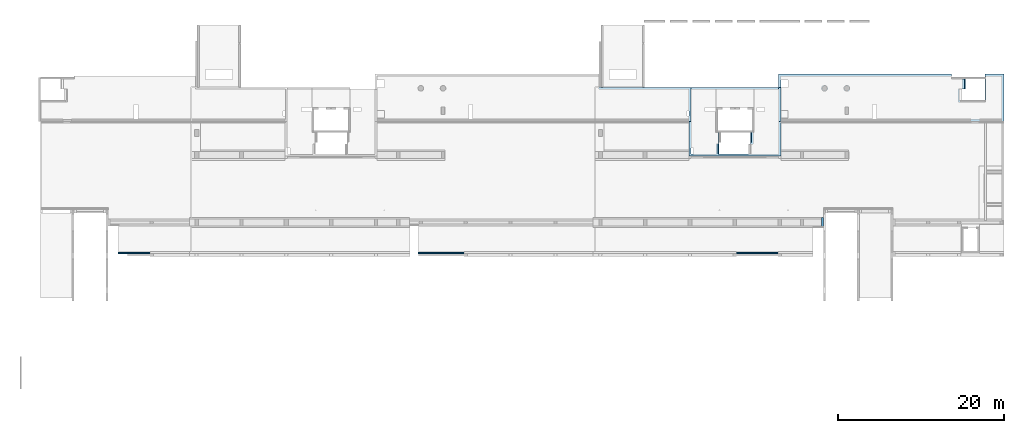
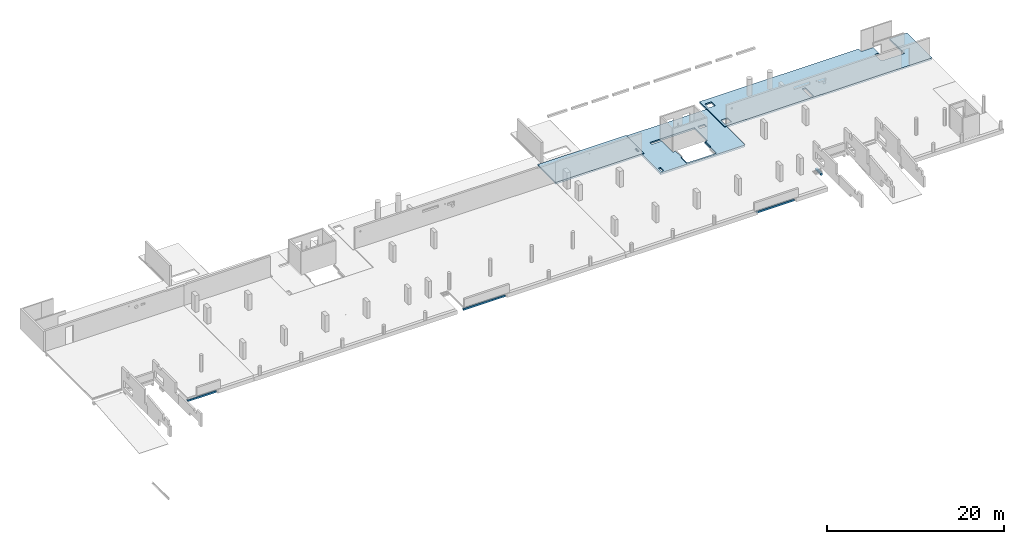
# One storey, part 9 of 10: 4 walls, 3 slabs.
"""IFC2X3 building model written with IfcOpenShell, lengths in millimetres."""

import ifcopenshell
import ifcopenshell.guid

model = None  # the IFC model being written
_history = None  # IfcOwnerHistory: only IFC2X3 demands one
_inside = {}  # id of a spatial element -> (the spatial element, [elements in it])
_under = {}  # id of a project, library or spatial element -> (it, [spatial elements below it])
_declared = {}  # id of a project -> (the project, [libraries it declares])
_typed = {}  # id of a type object -> (the type object, [elements of that type])
_made_of = {}  # id of a material, layer set ... -> (it, [elements and type objects made of it])


def new_model(schema):
    """Start an empty IFC model of exactly this schema.

    Asked for "IFC4X3", IfcOpenShell would pick the latest addendum, in which some entities
    have other attributes; the version numbers below select the first issue.
    IFC2X3 requires an IfcOwnerHistory on every rooted entity: one is made here for all.
    """
    global model, _history
    if schema == "IFC4X3":
        model = ifcopenshell.file(schema_version=(4, 3, 0, 0))
    else:
        model = ifcopenshell.file(schema=schema)
    _inside.clear()
    _under.clear()
    _declared.clear()
    _typed.clear()
    _made_of.clear()
    _history = None
    if model.schema == "IFC2X3":
        org = make("IfcOrganization", Name="unknown")
        user = make(
            "IfcPersonAndOrganization",
            ThePerson=make("IfcPerson", FamilyName="unknown"),
            TheOrganization=org,
        )
        app = make(
            "IfcApplication",
            ApplicationDeveloper=org,
            Version="unknown",
            ApplicationFullName="unknown",
            ApplicationIdentifier="unknown",
        )
        _history = make(
            "IfcOwnerHistory",
            OwningUser=user,
            OwningApplication=app,
            ChangeAction="ADDED",
            CreationDate=0,
        )
    return model


def make(cls, **values):
    """One entity of the class cls with the attributes given. An attribute that is None is left unset."""
    return model.create_entity(
        cls, **{name: value for name, value in values.items() if value is not None}
    )


def entity(cls, *values):
    """Any entity or typed value of the class cls, its attributes in the order of the schema. None: left unset."""
    e = model.create_entity(cls)
    for i, value in enumerate(values):
        if value is not None:
            e[i] = value
    return e


def rooted(cls, **values):
    """An entity with a GlobalId (a new one), such as an element, a storey or a relation."""
    return make(cls, GlobalId=ifcopenshell.guid.new(), OwnerHistory=_history, **values)


def si_unit(unit_type, name, prefix=None):
    """IfcSIUnit, for example si_unit("LENGTHUNIT", "METRE", prefix="MILLI")."""
    return make("IfcSIUnit", UnitType=unit_type, Prefix=prefix, Name=name)


def converted_unit(unit_type, name, factor, base, dimensions=None, offset=None):
    """IfcConversionBasedUnit, such as the inch: factor (a typed value) times the base unit."""
    return make(
        "IfcConversionBasedUnit"
        if offset is None
        else "IfcConversionBasedUnitWithOffset",
        ConversionOffset=offset,
        Dimensions=None
        if dimensions is None
        else entity("IfcDimensionalExponents", *dimensions),
        UnitType=unit_type,
        Name=name,
        ConversionFactor=make(
            "IfcMeasureWithUnit", ValueComponent=factor, UnitComponent=base
        ),
    )


def derived_unit(unit_type, elements):
    """IfcDerivedUnit: a product of units, each with its exponent."""
    return make(
        "IfcDerivedUnit",
        Elements=[
            make("IfcDerivedUnitElement", Unit=unit, Exponent=power)
            for unit, power in elements
        ],
        UnitType=unit_type,
    )


def assignment(units):
    """IfcUnitAssignment: the units of a project."""
    return None if units is None else make("IfcUnitAssignment", Units=units)


def point(xyz):
    """IfcCartesianPoint."""
    return None if xyz is None else make("IfcCartesianPoint", Coordinates=xyz)


def direction(xyz):
    """IfcDirection."""
    return None if xyz is None else make("IfcDirection", DirectionRatios=xyz)


def frame(location, z_axis=None, x_axis=None):
    """IfcAxis2Placement3D, a coordinate frame: its origin and axes. An axis left out is left unset."""
    return make(
        "IfcAxis2Placement3D",
        Location=point(location),
        Axis=direction(z_axis),
        RefDirection=direction(x_axis),
    )


def origin():
    """The frame at (0, 0, 0) with its axes left unset."""
    return frame((0.0, 0.0, 0.0))


def place(relative_to, where):
    """IfcLocalPlacement: puts the frame where relative to a parent placement (None: the world)."""
    return make(
        "IfcLocalPlacement", PlacementRelTo=relative_to, RelativePlacement=where
    )


def context(
    kind, dimensions, precision=None, world=None, true_north=None, identifier=None
):
    """IfcGeometricRepresentationContext, for example the 3D "Model" context."""
    return make(
        "IfcGeometricRepresentationContext",
        ContextIdentifier=identifier,
        ContextType=kind,
        CoordinateSpaceDimension=dimensions,
        Precision=precision,
        WorldCoordinateSystem=world,
        TrueNorth=true_north,
    )


def subcontext(parent, identifier, kind, view, scale=None):
    """IfcGeometricRepresentationSubContext, for example "Body" below "Model"."""
    return make(
        "IfcGeometricRepresentationSubContext",
        ContextIdentifier=identifier,
        ContextType=kind,
        ParentContext=parent,
        TargetScale=scale,
        TargetView=view,
    )


def project(units=None, contexts=None):
    """IfcProject with its units and contexts."""
    return rooted(
        "IfcProject",
        Name="project",
        RepresentationContexts=contexts,
        UnitsInContext=assignment(units),
    )


def spatial(cls, under=None, at=None, **own):
    """A site, building, storey or space (cls), placed at a placement, below another one or the project."""
    s = rooted(cls, ObjectPlacement=at, **own)
    if under is not None:
        _under.setdefault(under.id(), (under, []))[1].append(s)
    return s


def faces_of(points, faces, orient=None, outer=None):
    """IfcFace entities. A face is a list of loops; a loop is a list of indices into points, from 0.

    orient and outer hold one flag for each loop. By default every Orientation is true, the
    first loop of a face is its IfcFaceOuterBound and the others are IfcFaceBound.
    """
    made = []
    for i, loops in enumerate(faces):
        bounds = []
        for j, loop in enumerate(loops):
            is_outer = j == 0 if outer is None else outer[i][j]
            bounds.append(
                make(
                    "IfcFaceOuterBound" if is_outer else "IfcFaceBound",
                    Bound=make("IfcPolyLoop", Polygon=[points[k] for k in loop]),
                    Orientation=True if orient is None else orient[i][j],
                )
            )
        made.append(make("IfcFace", Bounds=bounds))
    return made


def faceted_brep(points, faces, orient=None, outer=None, voids=None):
    """IfcFacetedBrep: a solid bounded by flat faces; with voids (closed shells), ...WithVoids."""
    shared = [point(p) for p in points]
    hull = make("IfcClosedShell", CfsFaces=faces_of(shared, faces, orient, outer))
    if voids is None:
        return make("IfcFacetedBrep", Outer=hull)
    return make(
        "IfcFacetedBrepWithVoids",
        Outer=hull,
        Voids=[
            make(cls, CfsFaces=faces_of(shared, fs, o, b)) for cls, fs, o, b in voids
        ],
    )


def shape(context_of_items, identifier, shape_type, items):
    """IfcShapeRepresentation: the items that make up one representation, for example the "Body"."""
    return make(
        "IfcShapeRepresentation",
        ContextOfItems=context_of_items,
        RepresentationIdentifier=identifier,
        RepresentationType=shape_type,
        Items=items,
    )


def material(Name=None, Category=None):
    """IfcMaterial."""
    return make("IfcMaterial", Name=Name, Category=Category)


def made_of(thing, what):
    """Note that an element or type object is made of a material, layer set ...; save() writes the relation."""
    if what is not None:
        _made_of.setdefault(what.id(), (what, []))[1].append(thing)
    return thing


def type_object(cls, material=None, **own):
    """A type object (cls), such as IfcWallType, which elements share."""
    return made_of(rooted(cls, **own), material)


def element(
    cls,
    number,
    at=None,
    inside=None,
    cuts=None,
    type_object=None,
    material=None,
    context=None,
    identifier="Body",
    shape_type=None,
    held_by="IfcProductDefinitionShape",
    body=None,
    shapes=None,
    **own,
):
    """One element of the class cls, such as IfcWall. Its Tag is "e" and its number.

    at: its placement. inside: the storey or other place that contains it. cuts: it is an
    opening in that element (IfcRelVoidsElement). A single representation is given by context,
    identifier, shape_type and body (its items); several are given by shapes. held_by: the class
    of the entity that holds the representations. save() writes the other relations.
    """
    e = rooted(cls, Tag="e%d" % number, ObjectPlacement=at, **own)
    if body is not None:
        shapes = [shape(context, identifier, shape_type, body)]
    if shapes is not None:
        e.Representation = make(held_by, Representations=shapes)
    if inside is not None:
        _inside.setdefault(inside.id(), (inside, []))[1].append(e)
    if cuts is not None:
        rooted(
            "IfcRelVoidsElement", RelatingBuildingElement=cuts, RelatedOpeningElement=e
        )
    if type_object is not None:
        _typed.setdefault(type_object.id(), (type_object, []))[1].append(e)
    return made_of(e, material)


def aggregate(whole, parts):
    """IfcRelAggregates: a whole, such as a stair, and the parts it consists of."""
    return rooted("IfcRelAggregates", RelatingObject=whole, RelatedObjects=parts)


def save(model, path):
    """Write the relations noted so far, then the file.

    IfcRelAggregates (storeys below a building ...), IfcRelContainedInSpatialStructure (elements
    in a storey), IfcRelDefinesByType, IfcRelAssociatesMaterial and IfcRelDeclares: one each for
    every whole, place, type object, material and project.
    """
    for whole, parts in _under.values():
        aggregate(whole, parts)
    for where, things in _inside.values():
        rooted(
            "IfcRelContainedInSpatialStructure",
            RelatedElements=things,
            RelatingStructure=where,
        )
    for kind, things in _typed.values():
        rooted("IfcRelDefinesByType", RelatedObjects=things, RelatingType=kind)
    for what, things in _made_of.values():
        rooted("IfcRelAssociatesMaterial", RelatedObjects=things, RelatingMaterial=what)
    for by, libraries in _declared.values():
        rooted("IfcRelDeclares", RelatingContext=by, RelatedDefinitions=libraries)
    model.write(path)


model = new_model("IFC2X3")

# Units and contexts
model_context = context("Model", 3, precision=0.01, world=origin(), true_north=direction((6.12303176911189e-17, 1.0)))
body_context = subcontext(model_context, "Body", "Model", "MODEL_VIEW")
ifc_project = project(units=[si_unit("LENGTHUNIT", "METRE", prefix="MILLI"), si_unit("AREAUNIT", "SQUARE_METRE"), si_unit("VOLUMEUNIT", "CUBIC_METRE"), converted_unit("PLANEANGLEUNIT", "DEGREE", entity("IfcRatioMeasure", 0.0174532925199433), si_unit("PLANEANGLEUNIT", "RADIAN"), dimensions=[0, 0, 0, 0, 0, 0, 0]), si_unit("MASSUNIT", "GRAM", prefix="KILO"), derived_unit("MASSDENSITYUNIT", [(si_unit("MASSUNIT", "GRAM", prefix="KILO"), 1), (si_unit("LENGTHUNIT", "METRE"), -3)]), si_unit("TIMEUNIT", "SECOND"), si_unit("FREQUENCYUNIT", "HERTZ"), si_unit("THERMODYNAMICTEMPERATUREUNIT", "DEGREE_CELSIUS"), derived_unit("THERMALTRANSMITTANCEUNIT", [(si_unit("MASSUNIT", "GRAM", prefix="KILO"), 1), (si_unit("THERMODYNAMICTEMPERATUREUNIT", "KELVIN"), -1), (si_unit("TIMEUNIT", "SECOND"), -3)]), derived_unit("VOLUMETRICFLOWRATEUNIT", [(si_unit("LENGTHUNIT", "METRE"), 3), (si_unit("TIMEUNIT", "SECOND"), -1)]), si_unit("ELECTRICCURRENTUNIT", "AMPERE"), si_unit("ELECTRICVOLTAGEUNIT", "VOLT"), si_unit("POWERUNIT", "WATT"), si_unit("FORCEUNIT", "NEWTON", prefix="KILO"), si_unit("ILLUMINANCEUNIT", "LUX"), si_unit("LUMINOUSFLUXUNIT", "LUMEN"), si_unit("LUMINOUSINTENSITYUNIT", "CANDELA"), derived_unit("USERDEFINED", [(si_unit("MASSUNIT", "GRAM", prefix="KILO"), -1), (si_unit("LENGTHUNIT", "METRE"), -2), (si_unit("TIMEUNIT", "SECOND"), 3), (si_unit("LUMINOUSFLUXUNIT", "LUMEN"), 1)]), derived_unit("LINEARVELOCITYUNIT", [(si_unit("LENGTHUNIT", "METRE"), 1), (si_unit("TIMEUNIT", "SECOND"), -1)]), si_unit("PRESSUREUNIT", "PASCAL"), derived_unit("USERDEFINED", [(si_unit("LENGTHUNIT", "METRE"), -2), (si_unit("MASSUNIT", "GRAM", prefix="KILO"), 1), (si_unit("TIMEUNIT", "SECOND"), -2)])], contexts=[model_context])

# Site, building, storey
site_placement = place(None, origin())
site = spatial("IfcSite", under=ifc_project, at=site_placement, Name="Default", CompositionType="ELEMENT")
building_placement = place(site_placement, origin())
building = spatial("IfcBuilding", under=site, at=building_placement, Name="niet gebruiken", CompositionType="ELEMENT")
storey_placement = place(building_placement, frame((0.0, 0.0, 9410.0)))
storey = spatial("IfcBuildingStorey", under=building, at=storey_placement, Name="02b tweede tussenverdieping", CompositionType="ELEMENT", Elevation=9409.99999999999)

# Slabs
slab_1_placement = place(storey_placement, origin())
element("IfcSlab", 1, at=slab_1_placement, inside=storey, Name="Floor:NLRS_23.21_FL_breedplaat d=70/250_schil apart - gevlinderd_gen", ObjectType="Floor:NLRS_23.21_FL_breedplaat d=70/250_schil apart - gevlinderd_gen", PredefinedType="FLOOR", context=body_context, shape_type="Brep", body=[
    faceted_brep([(102916.376563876, 44957.1143943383, -250.0), (102887.753127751, 44883.2287886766, -250.0), (102854.958076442, 44798.5750029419, -250.0), (102783.260411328, 44770.799179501, -250.0), (102711.562746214, 44743.0233560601, -250.0), (102639.8650811, 44715.2475326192, -250.0), (102568.167415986, 44687.4717091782, -250.0), (102512.386042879, 44715.2475326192, -250.0), (102456.604669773, 44743.0233560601, -250.0), (102400.823296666, 44770.799179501, -250.0), (102345.04192356, 44798.575002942, -250.0), (102322.53144267, 44856.6812522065, -250.0), (102300.02096178, 44914.787501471, -250.0), (102283.623436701, 44957.1143928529, -250.0), (102255.0, 45031.0, -250.0), (102283.623436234, 45104.8856059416, -250.0), (102312.246872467, 45178.7712118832, -250.0), (102345.04192356, 45263.4249970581, -250.0), (102416.739588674, 45291.200820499, -250.0), (102488.437253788, 45318.9766439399, -250.0), (102560.134918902, 45346.7524673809, -250.0), (102631.832584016, 45374.5282908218, -250.0), (102687.613957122, 45346.7524673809, -250.0), (102743.395330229, 45318.9766439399, -250.0), (102799.176703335, 45291.200820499, -250.0), (102854.958076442, 45263.4249970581, -250.0), (102877.468557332, 45205.3187477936, -250.0), (102899.979038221, 45147.2124985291, -250.0), (102916.376563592, 45104.8856063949, -250.0), (102945.0, 45031.0, -250.0), (105495.0, 42776.0, -250.0), (105495.0, 41886.0, -250.0), (105055.0, 41886.0, -250.0), (105055.0, 42776.0, -250.0), (124200.0, 41061.0, -250.0), (123950.0, 41061.0, -250.0), (97325.0, 41061.0, -250.0), (97075.0, 41061.0, -250.0), (97075.0, 45156.0, -250.0), (97075.0, 46746.0, -250.0), (97325.0, 46746.0, -250.0), (117880.0, 46746.0, -250.0), (117880.0, 46496.0, -250.0), (117880.0, 46176.0, -250.0), (119545.0, 46176.0, -250.0), (119545.0, 44926.0, -250.0), (119175.0, 44926.0, -250.0), (119175.0, 46156.0, -250.0), (117860.0, 46156.0, -250.0), (117860.0, 46516.0, -250.0), (97305.0, 46516.0, -250.0), (97305.0, 46056.0, -250.0), (97325.0, 46056.0, -250.0), (97325.0, 45156.0, -250.0), (97305.0, 45156.0, -250.0), (97305.0, 42386.0, -250.0), (97325.0, 42386.0, -250.0), (97325.0, 41486.0, -250.0), (97305.0, 41486.0, -250.0), (97305.0, 41291.0, -250.0), (108375.0, 41291.0, -250.0), (108375.0, 41311.0, -250.0), (108825.0, 41311.0, -250.0), (108825.0, 41291.0, -250.0), (123970.0, 41291.0, -250.0), (123970.0, 46516.0, -250.0), (121950.0, 46516.0, -250.0), (121950.0, 43376.0, -250.0), (118710.0, 43376.0, -250.0), (118710.0, 44926.0, -250.0), (119005.0, 44926.0, -250.0), (119005.0, 43396.0, -250.0), (121930.0, 43396.0, -250.0), (121930.0, 46496.0, -250.0), (121930.0, 46746.0, -250.0), (123950.0, 46746.0, -250.0), (124200.0, 46746.0, -250.0), (105591.376563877, 44957.1143943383, -250.0), (105562.753127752, 44883.2287886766, -250.0), (105529.958076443, 44798.575002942, -250.0), (105458.260411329, 44770.799179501, -250.0), (105386.562746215, 44743.0233560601, -250.0), (105314.865081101, 44715.2475326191, -250.0), (105243.167415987, 44687.4717091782, -250.0), (105187.38604288, 44715.2475326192, -250.0), (105131.604669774, 44743.0233560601, -250.0), (105075.823296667, 44770.799179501, -250.0), (105020.041923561, 44798.575002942, -250.0), (104997.531442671, 44856.6812522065, -250.0), (104975.020961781, 44914.787501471, -250.0), (104958.623436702, 44957.1143928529, -250.0), (104930.0, 45031.0, -250.0), (104958.623436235, 45104.8856059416, -250.0), (104987.246872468, 45178.7712118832, -250.0), (105020.041923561, 45263.4249970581, -250.0), (105091.739588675, 45291.200820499, -250.0), (105163.437253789, 45318.9766439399, -250.0), (105235.134918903, 45346.7524673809, -250.0), (105306.832584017, 45374.5282908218, -250.0), (105362.613957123, 45346.7524673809, -250.0), (105418.39533023, 45318.9766439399, -250.0), (105474.176703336, 45291.200820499, -250.0), (105529.958076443, 45263.4249970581, -250.0), (105552.468557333, 45205.3187477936, -250.0), (105574.979038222, 45147.212498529, -250.0), (105591.376563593, 45104.8856063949, -250.0), (105620.0, 45031.0, -250.0), (97075.0, 41061.0, 0.0), (97325.0, 41061.0, 0.0), (97325.0, 41486.0, 0.0), (97325.0, 42386.0, 0.0), (97075.0, 46156.0, 0.0), (98225.0, 41486.0, 0.0), (108375.0, 41311.0, 0.0), (108825.0, 41311.0, 0.0), (120225.0, 41061.0, 0.0), (119005.0, 43396.0, 0.0), (121930.0, 43396.0, 0.0), (121250.0, 41061.0, 0.0), (123950.0, 41061.0, 0.0), (124200.0, 41061.0, 0.0), (124200.0, 46496.0, 0.0), (121930.0, 46496.0, 0.0), (121930.0, 46746.0, 0.0), (124200.0, 46746.0, 0.0), (118895.0, 43576.0, 0.0), (119005.0, 43576.0, 0.0), (108825.0, 43111.0, 0.0), (117880.0, 46176.0, 0.0), (118895.0, 44846.0, 0.0), (119005.0, 44926.0, 0.0), (119005.0, 44846.0, 0.0), (119435.0, 46176.0, 0.0), (119435.0, 44926.0, 0.0), (109095.0, 46746.0, 0.0), (117705.0, 46746.0, 0.0), (117880.0, 46496.0, 0.0), (117880.0, 46746.0, 0.0), (108125.0, 46746.0, 0.0), (108375.0, 43111.0, 0.0), (107875.0, 46746.0, 0.0), (106905.0, 46746.0, 0.0), (98225.0, 42386.0, 0.0), (98225.0, 45156.0, 0.0), (98225.0, 46056.0, 0.0), (98295.0, 46746.0, 0.0), (97325.0, 46746.0, 0.0), (97075.0, 46746.0, 0.0), (97325.0, 46056.0, 0.0), (97325.0, 45156.0, 0.0), (98325.0, 46746.0, -120.0), (98325.0, 46746.0, -50.0), (106875.0, 46746.0, -50.0), (106875.0, 46746.0, -120.0), (109125.0, 46746.0, -120.0), (109125.0, 46746.0, -50.0), (117675.0, 46746.0, -50.0), (117880.0, 46746.0, -120.0), (117675.0, 46746.0, -120.0), (97075.0, 46746.0, -50.0), (121930.0, 46746.0, -120.0), (123970.0, 46746.0, -120.0), (123970.0, 46746.0, -50.0), (121930.0, 46746.0, -50.0), (124200.0, 46746.0, -120.0), (97075.0, 41061.0, -90.0), (121930.0, 46726.0, -120.0), (121930.0, 46726.0, -50.0), (119545.0, 46176.0, -130.0), (119545.0, 44926.0, -130.0), (119435.0, 44926.0, -130.0), (119005.0, 44926.0, -180.0), (119175.0, 44926.0, -180.0), (119005.0, 44846.0, -130.0), (119005.0, 43576.0, -130.0), (98225.0, 46056.0, -180.0), (97325.0, 46056.0, -180.0), (97325.0, 45156.0, -180.0), (97325.0, 42386.0, -180.0), (97325.0, 41486.0, -180.0), (98225.0, 45156.0, -180.0), (98225.0, 41486.0, -180.0), (98225.0, 42386.0, -180.0), (119435.0, 46176.0, -130.0), (118895.0, 44846.0, -130.0), (118895.0, 43576.0, -130.0), (108375.0, 43111.0, -180.0), (108825.0, 43111.0, -180.0), (108825.0, 41311.0, -180.0), (108375.0, 41311.0, -180.0), (106875.0, 46726.0, -120.0), (98325.0, 46726.0, -120.0), (117675.0, 46726.0, -120.0), (109125.0, 46726.0, -120.0), (123970.0, 46726.0, -120.0), (106875.0, 46726.0, -50.0), (98325.0, 46726.0, -50.0), (117675.0, 46726.0, -50.0), (109125.0, 46726.0, -50.0), (123970.0, 46726.0, -50.0), (123970.0, 46516.0, -180.0), (123970.0, 41291.0, -180.0), (118710.0, 43376.0, -180.0), (108825.0, 41291.0, -180.0), (117860.0, 46156.0, -180.0), (117860.0, 46516.0, -180.0), (105529.958076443, 45263.4249970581, -180.0), (105552.468557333, 45205.3187477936, -180.0), (105574.979038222, 45147.212498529, -180.0), (105597.489519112, 45089.1062492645, -180.0), (105620.0, 45031.0, -180.0), (105597.489519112, 44972.8937507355, -180.0), (105574.979038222, 44914.787501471, -180.0), (105552.468557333, 44856.6812522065, -180.0), (105529.958076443, 44798.5750029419, -180.0), (105495.0, 42776.0, -180.0), (105495.0, 41886.0, -180.0), (108375.0, 41291.0, -180.0), (105055.0, 41886.0, -180.0), (97305.0, 41291.0, -180.0), (97305.0, 41486.0, -180.0), (102631.832584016, 44687.4717091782, -180.0), (102560.134918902, 44715.2475326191, -180.0), (102488.437253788, 44743.0233560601, -180.0), (102416.739588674, 44770.799179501, -180.0), (102345.04192356, 44798.575002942, -180.0), (97305.0, 45156.0, -180.0), (97305.0, 42386.0, -180.0), (102322.53144267, 44856.6812522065, -180.0), (102300.02096178, 44914.787501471, -180.0), (102277.510480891, 44972.8937507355, -180.0), (102255.0, 45031.0, -180.0), (102277.510480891, 45089.1062492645, -180.0), (102300.02096178, 45147.212498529, -180.0), (102322.53144267, 45205.3187477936, -180.0), (102345.04192356, 45263.4249970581, -180.0), (102400.823296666, 45291.200820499, -180.0), (102456.604669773, 45318.9766439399, -180.0), (102512.386042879, 45346.7524673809, -180.0), (102568.167415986, 45374.5282908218, -180.0), (97305.0, 46516.0, -180.0), (97305.0, 46056.0, -180.0), (105243.167415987, 45374.5282908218, -180.0), (102639.8650811, 45346.7524673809, -180.0), (105055.0, 42776.0, -180.0), (102687.613957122, 44715.2475326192, -180.0), (102743.395330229, 44743.0233560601, -180.0), (102799.176703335, 44770.799179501, -180.0), (102854.958076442, 44798.5750029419, -180.0), (105020.041923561, 44798.575002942, -180.0), (104997.531442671, 44856.6812522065, -180.0), (104975.020961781, 44914.787501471, -180.0), (104952.510480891, 44972.8937507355, -180.0), (104930.0, 45031.0, -180.0), (102877.468557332, 44856.6812522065, -180.0), (102899.979038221, 44914.787501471, -180.0), (102922.489519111, 44972.8937507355, -180.0), (102945.0, 45031.0, -180.0), (104952.510480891, 45089.1062492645, -180.0), (104975.020961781, 45147.2124985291, -180.0), (104997.531442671, 45205.3187477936, -180.0), (105020.041923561, 45263.4249970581, -180.0), (102922.489519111, 45089.1062492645, -180.0), (102899.979038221, 45147.212498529, -180.0), (102877.468557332, 45205.3187477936, -180.0), (102854.958076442, 45263.4249970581, -180.0), (105187.38604288, 45346.7524673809, -180.0), (102783.260411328, 45291.200820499, -180.0), (105131.604669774, 45318.9766439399, -180.0), (105075.823296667, 45291.200820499, -180.0), (102711.562746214, 45318.9766439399, -180.0), (105091.739588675, 44770.799179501, -180.0), (105163.437253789, 44743.0233560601, -180.0), (105235.134918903, 44715.2475326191, -180.0), (105306.832584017, 44687.4717091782, -180.0), (105362.613957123, 44715.2475326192, -180.0), (105418.39533023, 44743.0233560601, -180.0), (105474.176703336, 44770.799179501, -180.0), (105458.260411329, 45291.200820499, -180.0), (105386.562746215, 45318.9766439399, -180.0), (105314.865081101, 45346.7524673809, -180.0), (118710.0, 44926.0, -180.0), (119175.0, 46156.0, -180.0), (121950.0, 43376.0, -180.0), (121950.0, 46516.0, -180.0)], [[[0, 1, 2, 3, 4, 5, 6, 7, 8, 9, 10, 11, 12, 13, 14, 15, 16, 17, 18, 19, 20, 21, 22, 23, 24, 25, 26, 27, 28, 29]], [[30, 31, 32, 33]], [[34, 35, 36, 37, 38, 39, 40, 41, 42, 43, 44, 45, 46, 47, 48, 49, 50, 51, 52, 53, 54, 55, 56, 57, 58, 59, 60, 61, 62, 63, 64, 65, 66, 67, 68, 69, 70, 71, 72, 73, 74, 75, 76]], [[77, 78, 79, 80, 81, 82, 83, 84, 85, 86, 87, 88, 89, 90, 91, 92, 93, 94, 95, 96, 97, 98, 99, 100, 101, 102, 103, 104, 105, 106]], [[107, 108, 109]], [[109, 110, 107]], [[107, 110, 111]], [[112, 109, 108]], [[108, 113, 112]], [[114, 113, 108]], [[108, 115, 114]], [[116, 114, 115]], [[117, 116, 115]], [[117, 115, 118]], [[117, 118, 119]], [[117, 119, 120]], [[120, 121, 117]], [[117, 121, 122]], [[121, 123, 122]], [[123, 121, 124]], [[125, 114, 116]], [[116, 126, 125]], [[114, 125, 127]], [[128, 127, 125]], [[125, 129, 128]], [[129, 130, 128]], [[129, 131, 130]], [[132, 128, 130]], [[133, 132, 130]], [[127, 128, 134]], [[128, 135, 134]], [[128, 136, 135]], [[135, 136, 137]], [[127, 134, 138]], [[139, 127, 138]], [[140, 139, 138]], [[139, 140, 141]], [[141, 142, 139]], [[143, 142, 141]], [[141, 144, 143]], [[144, 141, 145]], [[144, 145, 146]], [[147, 111, 146]], [[146, 111, 148]], [[148, 144, 146]], [[149, 142, 143]], [[110, 142, 149]], [[149, 148, 111]], [[149, 111, 110]], [[113, 139, 142]], [[113, 142, 112]], [[145, 150, 40]], [[145, 151, 150]], [[152, 151, 145]], [[152, 145, 141]], [[146, 145, 40]], [[141, 153, 152]], [[140, 153, 141]], [[140, 154, 153]], [[154, 140, 138]], [[138, 134, 154]], [[155, 154, 134]], [[134, 135, 155]], [[156, 155, 135]], [[135, 157, 156]], [[137, 157, 135]], [[157, 158, 156]], [[158, 157, 41]], [[41, 153, 154]], [[153, 41, 40]], [[41, 154, 158]], [[40, 150, 153]], [[159, 146, 40]], [[40, 39, 159]], [[146, 159, 147]], [[74, 160, 161, 162, 163, 123, 124, 164, 76, 75]], [[121, 120, 34, 76, 164, 124]], [[37, 165, 107, 111, 147, 159, 39, 38]], [[72, 71, 116, 117]], [[166, 160, 74, 73, 72, 117, 122, 123, 163, 167]], [[45, 44, 168, 169]], [[46, 45, 169, 170, 133, 130, 171, 172]], [[70, 171, 130, 131, 173, 174, 126, 116, 71]], [[115, 108, 107, 165, 37, 36, 35, 34, 120, 119, 118]], [[175, 144, 148, 176]], [[176, 148, 149, 177, 53, 52]], [[178, 110, 109, 179, 57, 56]], [[177, 149, 143, 180]], [[180, 143, 144, 175]], [[181, 112, 142, 182]], [[169, 168, 183, 170]], [[173, 184, 185, 174]], [[183, 132, 133, 170]], [[42, 41, 157, 137, 136, 128, 43]], [[168, 44, 43, 128, 132, 183]], [[184, 173, 131, 129]], [[185, 184, 129, 125]], [[185, 125, 126, 174]], [[127, 139, 186, 187]], [[114, 127, 187, 188]], [[189, 113, 114, 188, 62, 61]], [[139, 113, 189, 186]], [[182, 142, 110, 178]], [[179, 109, 112, 181]], [[190, 153, 150, 191]], [[192, 158, 154, 193]], [[166, 194, 161, 160]], [[152, 195, 196, 151]], [[156, 197, 198, 155]], [[162, 199, 167, 163]], [[151, 196, 191, 150]], [[195, 190, 191, 196]], [[197, 192, 193, 198]], [[199, 194, 166, 167]], [[152, 153, 190, 195]], [[155, 198, 193, 154]], [[156, 158, 192, 197]], [[162, 161, 194, 199]], [[200, 65, 64, 201]], [[188, 202, 203]], [[187, 202, 188]], [[202, 187, 204]], [[205, 204, 187]], [[206, 205, 187]], [[187, 186, 206]], [[186, 207, 206]], [[186, 208, 207]], [[186, 209, 208]], [[186, 210, 209]], [[186, 211, 210]], [[186, 212, 211]], [[186, 213, 212]], [[186, 214, 213]], [[214, 186, 215]], [[186, 216, 215]], [[189, 216, 186]], [[216, 189, 217]], [[218, 216, 217]], [[218, 217, 181]], [[217, 219, 181]], [[219, 179, 181]], [[179, 219, 220]], [[221, 218, 181]], [[181, 222, 221]], [[181, 223, 222]], [[181, 224, 223]], [[181, 225, 224]], [[181, 182, 225]], [[180, 225, 182]], [[177, 180, 182]], [[182, 178, 177]], [[177, 178, 226]], [[227, 226, 178]], [[180, 228, 225]], [[180, 229, 228]], [[180, 230, 229]], [[180, 231, 230]], [[175, 231, 180]], [[175, 232, 231]], [[175, 233, 232]], [[175, 234, 233]], [[175, 235, 234]], [[175, 236, 235]], [[175, 237, 236]], [[175, 238, 237]], [[175, 239, 238]], [[240, 239, 175]], [[240, 175, 176]], [[176, 241, 240]], [[240, 205, 242]], [[240, 242, 239]], [[242, 243, 239]], [[244, 218, 221]], [[244, 221, 245]], [[244, 245, 246]], [[244, 246, 247]], [[244, 247, 248]], [[248, 249, 244]], [[248, 250, 249]], [[248, 251, 250]], [[248, 252, 251]], [[248, 253, 252]], [[253, 248, 254]], [[253, 254, 255]], [[253, 255, 256]], [[253, 256, 257]], [[257, 258, 253]], [[257, 259, 258]], [[257, 260, 259]], [[257, 261, 260]], [[261, 257, 262]], [[261, 262, 263]], [[261, 263, 264]], [[261, 264, 265]], [[265, 242, 266]], [[242, 265, 267]], [[265, 266, 268]], [[265, 268, 269]], [[265, 269, 261]], [[242, 267, 270]], [[242, 270, 243]], [[244, 249, 271]], [[244, 271, 272]], [[244, 272, 273]], [[244, 273, 274]], [[215, 274, 275]], [[244, 274, 215]], [[215, 275, 276]], [[215, 276, 277]], [[215, 277, 214]], [[205, 206, 278]], [[205, 278, 279]], [[205, 279, 280]], [[205, 280, 242]], [[281, 202, 204]], [[282, 281, 204]], [[171, 281, 282]], [[282, 172, 171]], [[201, 203, 202]], [[283, 201, 202]], [[283, 200, 201]], [[284, 200, 283]], [[203, 201, 64, 63]], [[217, 60, 59, 219]], [[240, 241, 51, 50]], [[220, 219, 59, 58]], [[227, 55, 54, 226]], [[240, 50, 49, 205]], [[200, 284, 66, 65]], [[203, 63, 62, 188]], [[217, 189, 61, 60]], [[179, 220, 58, 57]], [[227, 178, 56, 55]], [[177, 226, 54, 53]], [[241, 176, 52, 51]], [[218, 244, 33, 32]], [[216, 218, 32, 31]], [[215, 216, 31, 30]], [[244, 215, 30, 33]], [[249, 250, 251, 252, 253, 91, 90, 89, 88, 87]], [[84, 273, 272]], [[84, 83, 273]], [[85, 272, 271]], [[83, 274, 273]], [[79, 78, 77, 106, 210, 211, 212, 213, 214]], [[214, 277, 79]], [[271, 249, 86]], [[274, 82, 275]], [[276, 80, 277]], [[275, 82, 81]], [[249, 87, 86]], [[85, 271, 86]], [[274, 83, 82]], [[79, 277, 80]], [[272, 85, 84]], [[81, 276, 275]], [[80, 276, 81]], [[206, 207, 208, 209, 210, 106, 105, 104, 103, 102]], [[266, 97, 96]], [[99, 98, 280]], [[100, 279, 278]], [[278, 206, 101]], [[98, 97, 242]], [[94, 93, 92, 91, 253, 258, 259, 260, 261]], [[261, 269, 94]], [[242, 97, 266]], [[268, 95, 269]], [[279, 99, 280]], [[279, 100, 99]], [[206, 102, 101]], [[100, 278, 101]], [[94, 269, 95]], [[96, 268, 266]], [[98, 242, 280]], [[95, 268, 96]], [[265, 264, 263, 262, 257, 29, 28, 27, 26, 25]], [[238, 20, 19]], [[22, 21, 243]], [[23, 270, 267]], [[267, 265, 24]], [[21, 20, 239]], [[17, 16, 15, 14, 231, 232, 233, 234, 235]], [[235, 236, 17]], [[239, 20, 238]], [[237, 18, 236]], [[270, 22, 243]], [[270, 23, 22]], [[265, 25, 24]], [[23, 267, 24]], [[17, 236, 18]], [[19, 237, 238]], [[21, 239, 243]], [[18, 237, 19]], [[225, 228, 229, 230, 231, 14, 13, 12, 11, 10]], [[7, 222, 223]], [[7, 6, 222]], [[8, 223, 224]], [[6, 221, 222]], [[2, 1, 0, 29, 257, 256, 255, 254, 248]], [[248, 247, 2]], [[224, 225, 9]], [[221, 5, 245]], [[246, 3, 247]], [[245, 5, 4]], [[225, 10, 9]], [[8, 224, 9]], [[221, 6, 5]], [[2, 247, 3]], [[223, 8, 7]], [[4, 246, 245]], [[3, 246, 4]], [[204, 205, 49, 48]], [[204, 48, 47, 282]], [[282, 47, 46, 172]], [[281, 171, 70, 69]], [[281, 69, 68, 202]], [[202, 68, 67, 283]], [[283, 67, 66, 284]]]),
])
slab_2_placement = place(storey_placement, origin())
element("IfcSlab", 2, at=slab_2_placement, inside=storey, Name="Floor:NLRS_23.21_FL_breedplaat d=70/250_schil apart_gen", ObjectType="Floor:NLRS_23.21_FL_breedplaat d=70/250_schil apart_gen", PredefinedType="FLOOR", context=body_context, shape_type="Brep", body=[
    faceted_brep([(89525.0, 39746.0, -340.0), (89899.9997832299, 39746.0, -340.0), (89899.9997832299, 38526.0, -340.0), (89899.9997832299, 38306.0, -340.0), (89899.9997832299, 37106.0, -340.0), (93480.0, 37106.0, -340.0), (93699.9997832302, 37106.0, -340.0), (93699.9997832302, 38326.0, -340.0), (93700.0, 38526.0, -340.0), (93700.0, 39746.0, -340.0), (94075.0, 39746.0, -340.0), (94075.0, 42696.0, -340.0), (94095.0, 42696.0, -340.0), (94095.0, 39726.0, -340.0), (93970.0, 39726.0, -340.0), (93970.0, 38306.0, -340.0), (93749.9997832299, 38306.0, -340.0), (93749.9997832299, 37086.0, -340.0), (97095.0, 37086.0, -340.0), (97095.0, 44926.0, -340.0), (94075.0, 44926.0, -340.0), (89525.0, 44926.0, -340.0), (86505.0, 44926.0, -340.0), (86505.0, 37826.0, -340.0), (86525.0, 37826.0, -340.0), (86525.0, 37106.0, -340.0), (86825.0, 37106.0, -340.0), (86825.0, 37086.0, -340.0), (89599.9997832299, 37086.0, -340.0), (89599.9997832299, 38306.0, -340.0), (89850.0, 38306.0, -340.0), (89850.0, 39726.0, -340.0), (89505.0, 39726.0, -340.0), (89505.0, 42256.0, -340.0), (89525.0, 42256.0, -340.0), (86275.0, 36856.0, -340.0), (86275.0, 44906.0, -340.0), (86275.0, 45156.0, -340.0), (97325.0, 45156.0, -340.0), (97325.0, 36856.0, -340.0), (97075.0, 36856.0, -340.0), (89899.9997832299, 39746.0, -90.0), (89525.0, 39746.0, -90.0), (89525.0, 42256.0, -90.0), (88227.4998491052, 42256.0, -90.0), (88227.4998491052, 42696.0, -90.0), (94075.0, 42696.0, -90.0), (94075.0, 39746.0, -90.0), (93810.0, 39746.0, -90.0), (93810.0, 38526.0, -90.0), (93699.9997832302, 38526.0, -90.0), (93699.9997832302, 38326.0, -90.0), (93699.9997832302, 37106.0, -90.0), (93480.0, 37106.0, -90.0), (89789.9997832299, 37106.0, -90.0), (89789.9997832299, 38326.0, -90.0), (89899.9997832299, 38326.0, -90.0), (89899.9997832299, 38526.0, -90.0), (86825.0, 37826.0, -90.0), (86825.0, 37106.0, -90.0), (86525.0, 37106.0, -90.0), (86525.0, 37826.0, -90.0), (86275.0, 36856.0, -90.0), (97075.0, 36856.0, -90.0), (97325.0, 36856.0, -90.0), (97325.0, 41061.0, -90.0), (97075.0, 41061.0, -90.0), (97075.0, 45156.0, -90.0), (93975.0, 45156.0, -90.0), (93975.0, 45136.0, -90.0), (89205.0, 45136.0, -90.0), (89205.0, 45156.0, -90.0), (86525.0, 45156.0, -90.0), (86525.0, 44906.0, -90.0), (86525.0, 41061.0, -90.0), (86275.0, 41061.0, -90.0), (94480.0, 42701.0, -90.0), (95380.0, 42701.0, -90.0), (95380.0, 42251.0, -90.0), (94480.0, 42251.0, -90.0), (86275.0, 41061.0, -250.0), (86275.0, 41703.599707, -250.0), (86275.0, 42318.599707, -250.0), (86275.0, 44906.0, -250.0), (86275.0, 45156.0, -250.0), (86525.0, 45156.0, -250.0), (89205.0, 45156.0, -120.0), (93975.0, 45156.0, -120.0), (97075.0, 45156.0, -250.0), (97325.0, 45156.0, -250.0), (97325.0, 42386.0, -250.0), (97325.0, 41486.0, -250.0), (97325.0, 41061.0, -250.0), (88227.4998491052, 42696.0, -270.0), (89525.0, 42696.0, -270.0), (89525.0, 42696.0, -340.0), (94075.0, 42696.0, -270.0), (89899.9997832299, 38326.0, -130.0), (89899.9997832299, 38306.0, -130.0), (89899.9997832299, 37106.0, -130.0), (89789.9997832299, 37106.0, -130.0), (93699.9997832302, 38526.0, -340.0), (93700.0, 38526.0, -130.0), (93700.0, 39746.0, -130.0), (93810.0, 39746.0, -130.0), (93810.0, 38526.0, -130.0), (93699.9997832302, 38526.0, -130.0), (93700.0, 38526.0, -90.0), (88227.4998491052, 42256.0, -270.0), (89505.0, 42256.0, -270.0), (86825.0, 37826.0, -270.0), (86825.0, 37106.0, -270.0), (86525.0, 37826.0, -270.0), (89789.9997832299, 38326.0, -130.0), (86525.0, 41061.0, -250.0), (86505.0, 37826.0, -270.0), (86505.0, 44926.0, -270.0), (89525.0, 44926.0, -270.0), (94075.0, 44926.0, -270.0), (97095.0, 44926.0, -270.0), (97095.0, 37086.0, -270.0), (93749.9997832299, 37086.0, -270.0), (93749.9997832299, 38306.0, -270.0), (93970.0, 38306.0, -270.0), (93970.0, 39726.0, -270.0), (94095.0, 39726.0, -270.0), (94095.0, 42696.0, -270.0), (94075.0, 42716.0, -270.0), (89525.0, 42716.0, -270.0), (89505.0, 39726.0, -270.0), (89850.0, 39726.0, -270.0), (89850.0, 38306.0, -270.0), (89599.9997832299, 38306.0, -270.0), (89599.9997832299, 37086.0, -270.0), (86825.0, 37086.0, -270.0), (95380.0, 42701.0, -270.0), (94480.0, 42701.0, -270.0), (94480.0, 42251.0, -270.0), (95380.0, 42251.0, -270.0), (94075.0, 42716.0, -340.0), (89525.0, 42716.0, -340.0), (97075.0, 41061.0, -250.0), (89205.0, 45136.0, -120.0), (93975.0, 45136.0, -120.0)], [[[0, 1, 2, 3, 4, 5, 6, 7, 8, 9, 10, 11, 12, 13, 14, 15, 16, 17, 18, 19, 20, 21, 22, 23, 24, 25, 26, 27, 28, 29, 30, 31, 32, 33, 34], [35, 36, 37, 38, 39, 40]], [[41, 42, 43, 44, 45, 46, 47, 48, 49, 50, 51, 52, 53, 54, 55, 56, 57], [58, 59, 60, 61], [62, 63, 64, 65, 66, 67, 68, 69, 70, 71, 72, 73, 74, 75], [76, 77, 78, 79]], [[37, 36, 35, 62, 75, 80, 81, 82, 83, 84]], [[38, 37, 84, 85, 72, 71, 86, 87, 68, 67, 88, 89]], [[39, 38, 89, 90, 91, 92, 65, 64]], [[35, 40, 39, 64, 63, 62]], [[46, 45, 93, 94, 95, 11, 96]], [[42, 0, 34, 43]], [[1, 0, 42, 41]], [[11, 10, 47, 46, 96]], [[3, 2, 1, 41, 57, 56, 97, 98]], [[6, 5, 4, 99, 100, 54, 53, 52]], [[101, 7, 6, 52, 51, 50, 102]], [[10, 9, 103, 104, 48, 47]], [[4, 3, 98, 99]], [[9, 8, 102, 103]], [[102, 105, 104, 103]], [[104, 105, 49, 48]], [[105, 106, 107, 49]], [[45, 44, 108, 93]], [[44, 43, 34, 33, 109, 108]], [[59, 58, 110, 111]], [[25, 60, 59, 111, 26]], [[60, 25, 24, 112, 61]], [[58, 61, 112, 110]], [[100, 99, 98, 97, 113]], [[100, 113, 55, 54]], [[113, 97, 56, 55]], [[114, 85, 84, 83, 82, 81, 80]], [[114, 80, 75, 74]], [[85, 114, 74, 73, 72]], [[115, 116, 117, 118, 119, 120, 121, 122, 123, 124, 125, 126, 96, 127, 128, 94, 93, 108, 109, 129, 130, 131, 132, 133, 134, 111, 110, 112], [135, 136, 137, 138]], [[129, 109, 33, 32]], [[125, 124, 14, 13]], [[96, 11, 139, 127]], [[133, 132, 29, 28]], [[122, 121, 17, 16]], [[130, 129, 32, 31]], [[124, 123, 15, 14]], [[131, 130, 31, 30]], [[134, 133, 28, 27]], [[134, 27, 26, 111]], [[23, 115, 112, 24]], [[116, 115, 23, 22]], [[116, 22, 21, 20, 19, 119, 118, 117]], [[95, 94, 128, 140]], [[120, 119, 19, 18]], [[121, 120, 18, 17]], [[126, 125, 13, 12]], [[96, 126, 12, 11]], [[132, 131, 30, 29]], [[123, 122, 16, 15]], [[128, 127, 139, 140]], [[88, 141, 92, 91, 90, 89]], [[141, 88, 67, 66]], [[92, 141, 66, 65]], [[142, 143, 87, 86]], [[143, 142, 70, 69]], [[87, 143, 69, 68]], [[142, 86, 71, 70]], [[77, 76, 136, 135]], [[78, 77, 135, 138]], [[79, 78, 138, 137]], [[76, 79, 137, 136]], [[139, 11, 95, 140]]], outer=[[False, True], [False, False, True, False], [True], [True], [True], [True], [True], [True], [True], [True], [True], [True], [True], [True], [True], [True], [True], [True], [True], [True], [True], [True], [True], [True], [True], [True], [True], [True], [True], [True], [True], [True, False], [True], [True], [True], [True], [True], [True], [True], [True], [True], [True], [True], [True], [True], [True], [True], [True], [True], [True], [True], [True], [True], [True], [True], [True], [True], [True], [True], [True], [True], [True], [True], [True], [True]]),
])
slab_3_placement = place(storey_placement, origin())
element("IfcSlab", 3, at=slab_3_placement, inside=storey, Name="Floor:NLRS_23.21_FL_breedplaat d=70/250_schil apart - gevlinderd_gen", ObjectType="Floor:NLRS_23.21_FL_breedplaat d=70/250_schil apart - gevlinderd_gen", PredefinedType="FLOOR", context=body_context, shape_type="Brep", body=[
    faceted_brep([(86525.0, 41061.0, -250.0), (86275.0, 41061.0, -250.0), (74970.0, 41061.0, -250.0), (74970.0, 41291.0, -250.0), (86295.0, 41291.0, -250.0), (86295.0, 44926.0, -250.0), (75470.0, 44926.0, -250.0), (75470.0, 45156.0, -250.0), (86275.0, 45156.0, -250.0), (86525.0, 45156.0, -250.0), (74970.0, 41061.0, 0.0), (86275.0, 41061.0, 0.0), (86525.0, 41061.0, 0.0), (86525.0, 43386.0, 0.0), (86525.0, 44411.0, 0.0), (86525.0, 44906.0, 0.0), (86525.0, 45156.0, 0.0), (75450.0, 45156.0, 0.0), (74970.0, 45156.0, 0.0), (74970.0, 41311.0, 0.0), (86014.999533, 42318.599707, 0.0), (86274.999533, 42318.599707, 0.0), (86274.999533, 41703.599707, 0.0), (86014.999533, 41703.599707, 0.0), (86525.0, 41061.0, -90.0), (74970.0, 45156.0, -180.0), (74970.0, 41291.0, -180.0), (86525.0, 45156.0, -90.0), (75470.0, 45156.0, -180.0), (86295.0, 41291.0, -180.0), (75470.0, 44926.0, -180.0), (86295.0, 44926.0, -180.0), (86274.999533, 42318.599707, -180.0), (86014.999533, 42318.599707, -180.0), (86014.999533, 41703.599707, -180.0), (86274.999533, 41703.599707, -180.0)], [[[0, 1, 2, 3, 4, 5, 6, 7, 8, 9]], [[10, 11, 12, 13, 14, 15, 16, 17, 18, 19], [20, 21, 22, 23]], [[2, 1, 0, 24, 12, 11, 10]], [[10, 19, 18, 25, 26, 3, 2]], [[18, 17, 16, 27, 9, 8, 7, 28, 25]], [[0, 9, 27, 16, 15, 14, 13, 12, 24]], [[29, 26, 25, 28, 30, 31], [32, 33, 34, 35]], [[30, 28, 7, 6]], [[31, 30, 6, 5]], [[29, 31, 5, 4]], [[26, 29, 4, 3]], [[21, 20, 33, 32]], [[20, 23, 34, 33]], [[23, 22, 35, 34]], [[22, 21, 32, 35]]]),
])

# Walls
ifc_material = material(Name="NLRS_f2_beton prefab")
wall_type_1 = type_object("IfcWallType", Name="NLRS_21.21_SF_WPB_oplegnok prefabbeton_gen:250x310", PredefinedType="NOTDEFINED", material=ifc_material)
wall_1_placement = place(storey_placement, frame((102225.0, 28263.5, -850.0), z_axis=(0.0, 0.0, 1.0), x_axis=(0.0, 1.0, 0.0)))
element("IfcWall", 4, at=wall_1_placement, inside=storey, type_object=wall_type_1, material=ifc_material, Name="NLRS_21.21_SF_WPB_oplegnok prefabbeton_gen:250x310", ObjectType="NLRS_21.21_SF_WPB_oplegnok prefabbeton_gen:250x310", context=body_context, shape_type="Brep", body=[
    faceted_brep([(0.0, -250.0, 310.0), (0.0, 0.0, 310.0), (0.0, 0.0, 39.9987607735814), (0.0, -250.0, 0.0), (1235.0, -250.0, 310.0), (1235.0, -250.0, 0.0), (1235.0, 0.0, 39.9987607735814), (1235.0, 0.0, 310.0)], [[[0, 1, 2, 3]], [[4, 5, 6, 7]], [[3, 5, 4, 0]], [[1, 7, 6, 2]], [[0, 4, 7, 1]], [[2, 6, 5, 3]]]),
])
wall_type_2 = type_object("IfcWallType", Name="NLRS_21.21_SF_WPB_oplegnok prefabbeton_gen:200x250 afschuining", PredefinedType="NOTDEFINED", material=ifc_material)
wall_2_placement = place(storey_placement, frame((17595.0, 25101.0, -580.0)))
element("IfcWall", 5, at=wall_2_placement, inside=storey, type_object=wall_type_2, material=ifc_material, Name="NLRS_21.21_SF_WPB_oplegnok prefabbeton_gen:200x250 afschuining", ObjectType="NLRS_21.21_SF_WPB_oplegnok prefabbeton_gen:200x250 afschuining", context=body_context, shape_type="Brep", body=[
    faceted_brep([(0.0, 0.0, 250.0), (0.0, 200.0, 250.0), (0.0, 200.0, 49.9768447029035), (0.0, 0.0, 0.0), (3785.0, 0.0, 250.0), (3785.0, 0.0, 30.0), (3785.0, 0.0, 0.0), (3785.0, 200.0, 49.9768447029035), (3785.0, 200.0, 250.0)], [[[0, 1, 2, 3]], [[4, 5, 6, 7, 8]], [[3, 6, 5, 4, 0]], [[1, 8, 7, 2]], [[0, 4, 8, 1]], [[2, 7, 6, 3]]]),
])
wall_3_placement = place(storey_placement, frame((53690.0, 25101.0, -580.0)))
element("IfcWall", 6, at=wall_3_placement, inside=storey, type_object=wall_type_2, material=ifc_material, Name="NLRS_21.21_SF_WPB_oplegnok prefabbeton_gen:200x250 afschuining", ObjectType="NLRS_21.21_SF_WPB_oplegnok prefabbeton_gen:200x250 afschuining", context=body_context, shape_type="Brep", body=[
    faceted_brep([(0.0, 0.0, 250.0), (0.0, 200.0, 250.0), (0.0, 200.0, 49.9768447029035), (0.0, 0.0, 0.0), (5490.0, 0.0, 250.0), (5490.0, 0.0, 30.0), (5490.0, 0.0, 0.0), (5490.0, 200.0, 49.9768447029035), (5490.0, 200.0, 250.0)], [[[0, 1, 2, 3]], [[4, 5, 6, 7, 8]], [[3, 6, 5, 4, 0]], [[1, 8, 7, 2]], [[0, 4, 8, 1]], [[2, 7, 6, 3]]]),
])
wall_4_placement = place(storey_placement, frame((92020.0, 25101.0, -580.0)))
element("IfcWall", 7, at=wall_4_placement, inside=storey, type_object=wall_type_2, material=ifc_material, Name="NLRS_21.21_SF_WPB_oplegnok prefabbeton_gen:200x250 afschuining", ObjectType="NLRS_21.21_SF_WPB_oplegnok prefabbeton_gen:200x250 afschuining", context=body_context, shape_type="Brep", body=[
    faceted_brep([(0.0, 0.0, 250.0), (0.0, 200.0, 250.0), (0.0, 200.0, 49.9768447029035), (0.0, 0.0, 0.0), (0.0, 0.0, 30.0), (4960.0, 0.0, 250.0), (4960.0, 0.0, 30.0), (4960.0, 0.0, 0.0), (4960.0, 200.0, 49.9768447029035), (4960.0, 200.0, 250.0)], [[[0, 1, 2, 3, 4]], [[5, 6, 7, 8, 9]], [[3, 7, 6, 5, 0, 4]], [[1, 9, 8, 2]], [[0, 5, 9, 1]], [[2, 8, 7, 3]]]),
])

save(model, "model.ifc")
